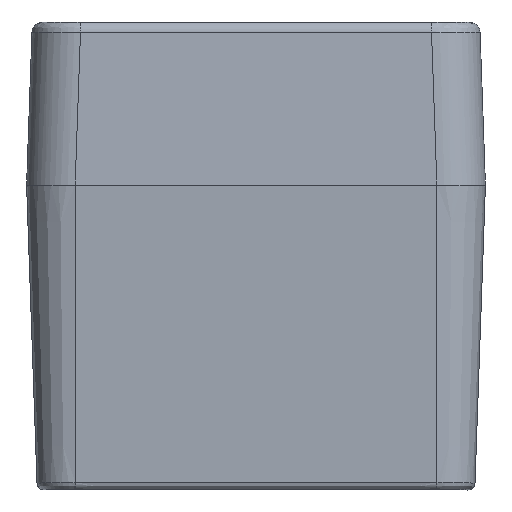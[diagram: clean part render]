
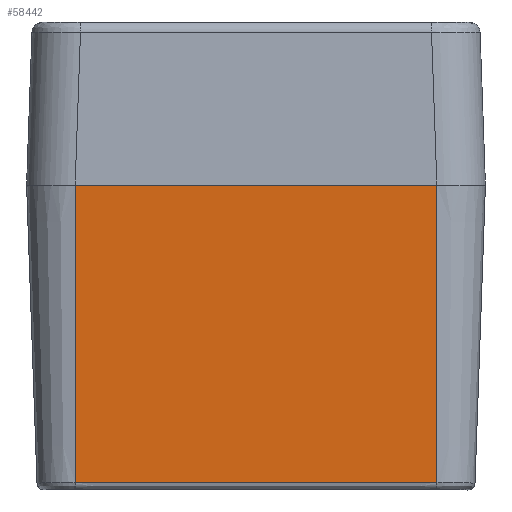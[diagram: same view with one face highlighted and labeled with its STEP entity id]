
A CAD part, front view. The second image highlights one B-rep face of the part: STEP entity #58442.
In plain terms, the highlighted planar face has unit normal (0, -0.999, -0.035).
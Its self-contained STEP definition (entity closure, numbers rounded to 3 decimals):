
#30529=CARTESIAN_POINT('',(-33.5,-111.078,1.448));
#30565=CARTESIAN_POINT('',(33.5,-111.078,1.448));
#30566=CARTESIAN_POINT('',(32.267,-111.078,
1.451));
#30567=CARTESIAN_POINT('',(29.701,-111.077,
1.446));
#30568=CARTESIAN_POINT('',(25.555,-111.078,
1.448));
#30569=CARTESIAN_POINT('',(21.112,-111.078,
1.447));
#30570=CARTESIAN_POINT('',(16.353,-111.078,
1.448));
#30571=CARTESIAN_POINT('',(11.254,-111.078,
1.448));
#30572=CARTESIAN_POINT('',(5.794,-111.078,
1.448));
#30573=CARTESIAN_POINT('',(-0.067,-111.078,
1.448));
#30574=CARTESIAN_POINT('',(-6.299,-111.078,
1.448));
#30575=CARTESIAN_POINT('',(-13.169,-111.078,
1.448));
#30576=CARTESIAN_POINT('',(-19.178,-111.078,
1.447));
#30577=CARTESIAN_POINT('',(-24.519,-111.078,
1.449));
#30578=CARTESIAN_POINT('',(-29.277,-111.077,
1.445));
#30579=CARTESIAN_POINT('',(-32.148,-111.078,
1.452));
#30580=CARTESIAN_POINT('',(-33.5,-111.078,1.448));
#30582=DIRECTION('',(0.,0.035,-0.999));
#30583=VECTOR('',#30582,55.086);
#30584=CARTESIAN_POINT('',(-33.5,-113.,56.5));
#30585=LINE('',#30584,#30583);
#30586=DIRECTION('',(1.,0.,0.));
#30587=VECTOR('',#30586,67.);
#30588=CARTESIAN_POINT('',(-33.5,-113.,56.5));
#30589=LINE('',#30588,#30587);
#30590=DIRECTION('',(0.,0.035,-0.999));
#30591=VECTOR('',#30590,55.086);
#30592=CARTESIAN_POINT('',(33.5,-113.,56.5));
#30593=LINE('',#30592,#30591);
#36862=CARTESIAN_POINT('',(33.5,-113.,56.5));
#36864=VERTEX_POINT('',#36862);
#36867=CARTESIAN_POINT('',(-33.5,-113.,56.5));
#36869=VERTEX_POINT('',#36867);
#36912=VERTEX_POINT('',#30529);
#36914=VERTEX_POINT('',#30565);
#58430=CARTESIAN_POINT('',(-46.687,-113.,56.5));
#58431=DIRECTION('',(0.,-0.999,-0.035));
#58432=DIRECTION('',(-1.,0.,0.));
#58433=AXIS2_PLACEMENT_3D('',#58430,#58431,#58432);
#58434=PLANE('',#58433);
#58435=ORIENTED_EDGE('',*,*,#58423,.T.);
#58436=ORIENTED_EDGE('',*,*,#58230,.F.);
#58437=ORIENTED_EDGE('',*,*,#37619,.T.);
#58439=ORIENTED_EDGE('',*,*,#58438,.T.);
#58440=EDGE_LOOP('',(#58435,#58436,#58437,#58439));
#58441=FACE_OUTER_BOUND('',#58440,.F.);
#58442=ADVANCED_FACE('',(#58441),#58434,.T.);
#30581=B_SPLINE_CURVE_WITH_KNOTS('',3,(#30565,#30566,#30567,#30568,#30569,
#30570,#30571,#30572,#30573,#30574,#30575,#30576,#30577,#30578,#30579,#30580),
.UNSPECIFIED.,.F.,.F.,(4,1,1,1,1,1,1,1,1,1,1,1,1,4),(0.,0.077,
0.154,0.231,0.308,0.385,
0.462,0.538,0.615,0.692,
0.769,0.846,0.923,1.),.UNSPECIFIED.);
#37619=EDGE_CURVE('',#36869,#36864,#30589,.T.);
#58230=EDGE_CURVE('',#36869,#36912,#30585,.T.);
#58423=EDGE_CURVE('',#36914,#36912,#30581,.T.);
#58438=EDGE_CURVE('',#36864,#36914,#30593,.T.);
